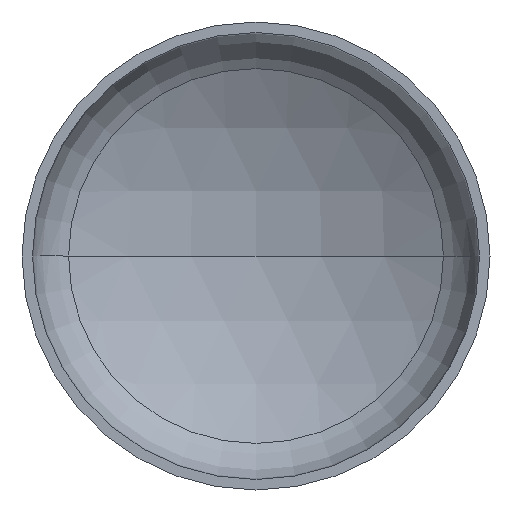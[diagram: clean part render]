
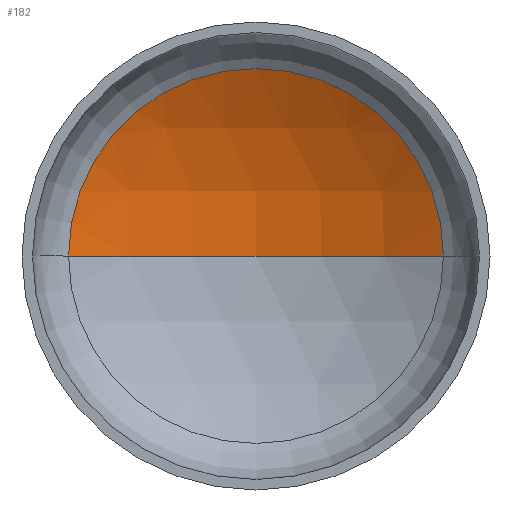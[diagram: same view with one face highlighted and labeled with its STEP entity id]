
A CAD part, front view. The second image highlights one B-rep face of the part: STEP entity #182.
In plain terms, the highlighted spherical face has radius 1920 mm.
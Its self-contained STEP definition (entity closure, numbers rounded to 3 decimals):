
#6 = DIRECTION ( 'NONE',  ( 1., 0., 0. ) ) ;
#8 = DIRECTION ( 'NONE',  ( 0., -1., 0. ) ) ;
#9 = EDGE_LOOP ( 'NONE', ( #39, #78, #32 ) ) ;
#31 = VERTEX_POINT ( 'NONE', #283 ) ;
#32 = ORIENTED_EDGE ( 'NONE', *, *, #141, .T. ) ;
#39 = ORIENTED_EDGE ( 'NONE', *, *, #153, .F. ) ;
#53 = AXIS2_PLACEMENT_3D ( 'NONE', #324, #394, #266 ) ;
#62 = AXIS2_PLACEMENT_3D ( 'NONE', #188, #200, #202 ) ;
#63 = AXIS2_PLACEMENT_3D ( 'NONE', #355, #300, #136 ) ;
#74 = VERTEX_POINT ( 'NONE', #267 ) ;
#75 = AXIS2_PLACEMENT_3D ( 'NONE', #292, #8, #6 ) ;
#78 = ORIENTED_EDGE ( 'NONE', *, *, #147, .T. ) ;
#118 = VERTEX_POINT ( 'NONE', #336 ) ;
#136 = DIRECTION ( 'NONE',  ( -1., 0., 0. ) ) ;
#141 = EDGE_CURVE ( 'NONE', #31, #74, #339, .T. ) ;
#147 = EDGE_CURVE ( 'NONE', #118, #31, #151, .T. ) ;
#151 = CIRCLE ( 'NONE', #63, 1920. ) ;
#153 = EDGE_CURVE ( 'NONE', #118, #74, #399, .T. ) ;
#182 = ADVANCED_FACE ( 'NONE', ( #389 ), #334, .F. ) ;
#188 = CARTESIAN_POINT ( 'NONE',  ( 0., -1221.762, 0. ) ) ;
#200 = DIRECTION ( 'NONE',  ( 0., 0., 1. ) ) ;
#202 = DIRECTION ( 'NONE',  ( 1., 0., 0. ) ) ;
#266 = DIRECTION ( 'NONE',  ( -1., 0., 0. ) ) ;
#267 = CARTESIAN_POINT ( 'NONE',  ( -961.239, 440.291, 0. ) ) ;
#283 = CARTESIAN_POINT ( 'NONE',  ( 961.239, 440.291, 0. ) ) ;
#292 = CARTESIAN_POINT ( 'NONE',  ( 0., 440.291, 0. ) ) ;
#300 = DIRECTION ( 'NONE',  ( 0., 0., -1. ) ) ;
#324 = CARTESIAN_POINT ( 'NONE',  ( 0., -1221.762, 0. ) ) ;
#334 = SPHERICAL_SURFACE ( 'NONE', #53, 1920. ) ;
#336 = CARTESIAN_POINT ( 'NONE',  ( 0., 698.238, 0. ) ) ;
#339 = CIRCLE ( 'NONE', #75, 961.239 ) ;
#355 = CARTESIAN_POINT ( 'NONE',  ( 0., -1221.762, 0. ) ) ;
#389 = FACE_OUTER_BOUND ( 'NONE', #9, .T. ) ;
#394 = DIRECTION ( 'NONE',  ( 0., 0., -1. ) ) ;
#399 = CIRCLE ( 'NONE', #62, 1920. ) ;
